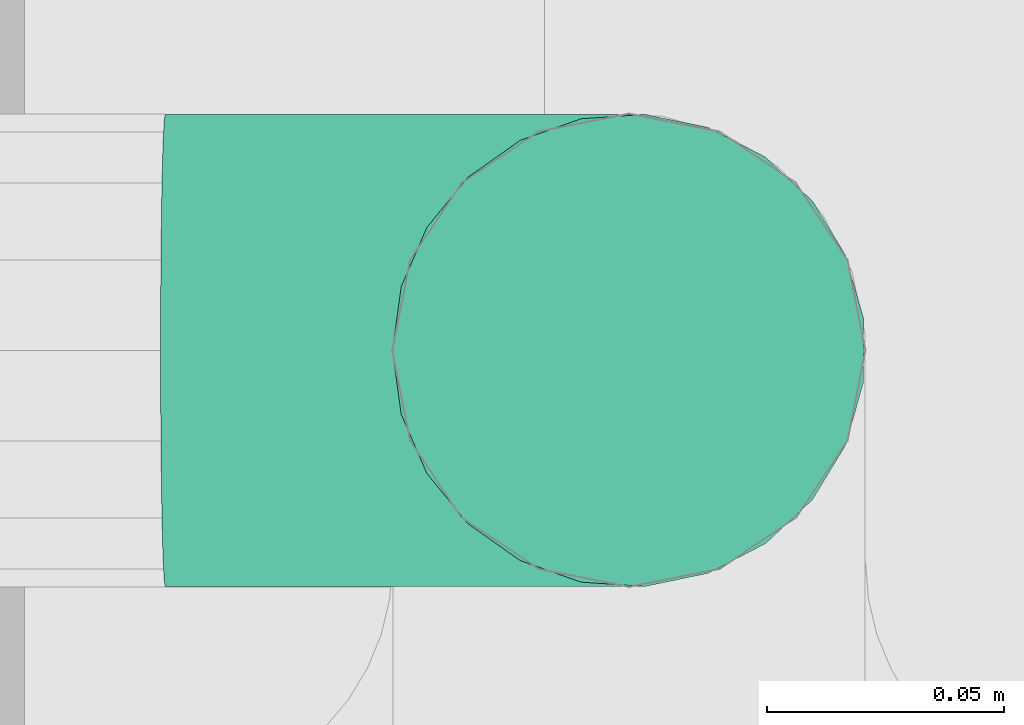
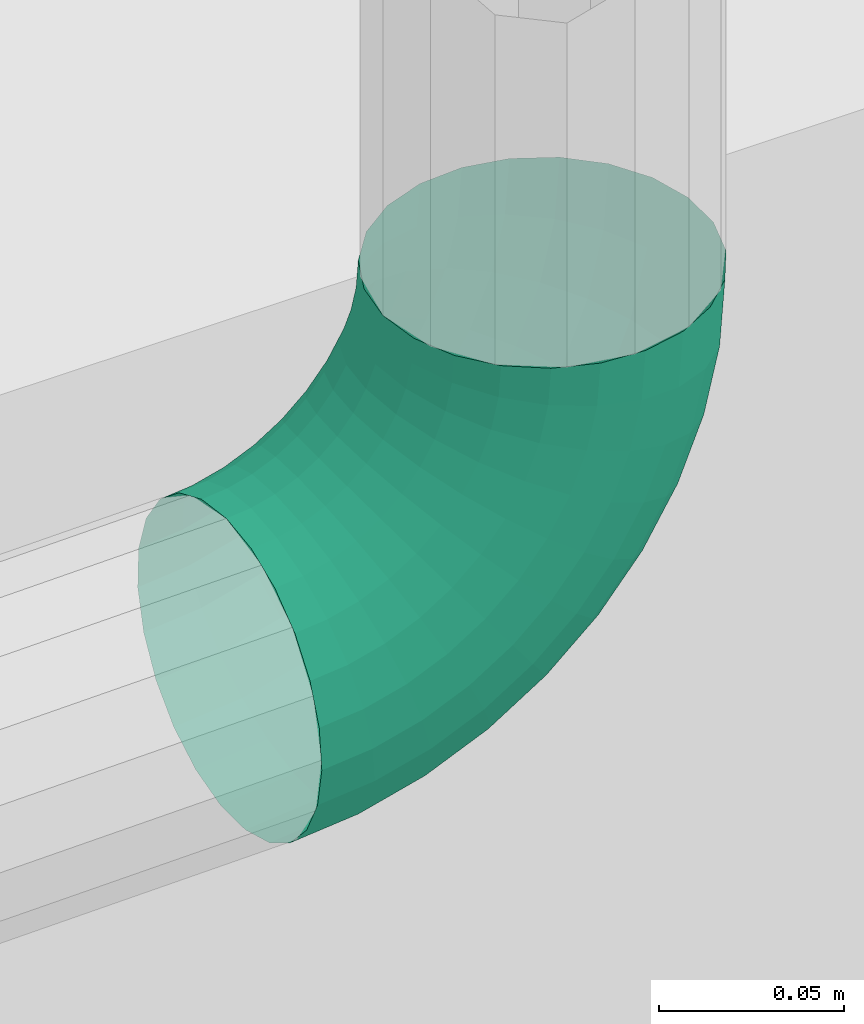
# One storey, part 77 of 106: 1 flow fitting.
"""IFC2X3 building model written with IfcOpenShell, lengths in metres."""

import ifcopenshell
import ifcopenshell.guid

model = None  # the IFC model being written
_history = None  # IfcOwnerHistory: only IFC2X3 demands one
_inside = {}  # id of a spatial element -> (the spatial element, [elements in it])
_under = {}  # id of a project, library or spatial element -> (it, [spatial elements below it])
_declared = {}  # id of a project -> (the project, [libraries it declares])
_typed = {}  # id of a type object -> (the type object, [elements of that type])
_made_of = {}  # id of a material, layer set ... -> (it, [elements and type objects made of it])


def new_model(schema):
    """Start an empty IFC model of exactly this schema.

    Asked for "IFC4X3", IfcOpenShell would pick the latest addendum, in which some entities
    have other attributes; the version numbers below select the first issue.
    IFC2X3 requires an IfcOwnerHistory on every rooted entity: one is made here for all.
    """
    global model, _history
    if schema == "IFC4X3":
        model = ifcopenshell.file(schema_version=(4, 3, 0, 0))
    else:
        model = ifcopenshell.file(schema=schema)
    _inside.clear()
    _under.clear()
    _declared.clear()
    _typed.clear()
    _made_of.clear()
    _history = None
    if model.schema == "IFC2X3":
        org = make("IfcOrganization", Name="unknown")
        user = make(
            "IfcPersonAndOrganization",
            ThePerson=make("IfcPerson", FamilyName="unknown"),
            TheOrganization=org,
        )
        app = make(
            "IfcApplication",
            ApplicationDeveloper=org,
            Version="unknown",
            ApplicationFullName="unknown",
            ApplicationIdentifier="unknown",
        )
        _history = make(
            "IfcOwnerHistory",
            OwningUser=user,
            OwningApplication=app,
            ChangeAction="ADDED",
            CreationDate=0,
        )
    return model


def make(cls, **values):
    """One entity of the class cls with the attributes given. An attribute that is None is left unset."""
    return model.create_entity(
        cls, **{name: value for name, value in values.items() if value is not None}
    )


def entity(cls, *values):
    """Any entity or typed value of the class cls, its attributes in the order of the schema. None: left unset."""
    e = model.create_entity(cls)
    for i, value in enumerate(values):
        if value is not None:
            e[i] = value
    return e


def rooted(cls, **values):
    """An entity with a GlobalId (a new one), such as an element, a storey or a relation."""
    return make(cls, GlobalId=ifcopenshell.guid.new(), OwnerHistory=_history, **values)


def si_unit(unit_type, name, prefix=None):
    """IfcSIUnit, for example si_unit("LENGTHUNIT", "METRE", prefix="MILLI")."""
    return make("IfcSIUnit", UnitType=unit_type, Prefix=prefix, Name=name)


def converted_unit(unit_type, name, factor, base, dimensions=None, offset=None):
    """IfcConversionBasedUnit, such as the inch: factor (a typed value) times the base unit."""
    return make(
        "IfcConversionBasedUnit"
        if offset is None
        else "IfcConversionBasedUnitWithOffset",
        ConversionOffset=offset,
        Dimensions=None
        if dimensions is None
        else entity("IfcDimensionalExponents", *dimensions),
        UnitType=unit_type,
        Name=name,
        ConversionFactor=make(
            "IfcMeasureWithUnit", ValueComponent=factor, UnitComponent=base
        ),
    )


def derived_unit(unit_type, elements):
    """IfcDerivedUnit: a product of units, each with its exponent."""
    return make(
        "IfcDerivedUnit",
        Elements=[
            make("IfcDerivedUnitElement", Unit=unit, Exponent=power)
            for unit, power in elements
        ],
        UnitType=unit_type,
    )


def money_unit(currency):
    """IfcMonetaryUnit."""
    return make("IfcMonetaryUnit", Currency=currency)


def assignment(units):
    """IfcUnitAssignment: the units of a project."""
    return None if units is None else make("IfcUnitAssignment", Units=units)


def point(xyz):
    """IfcCartesianPoint."""
    return None if xyz is None else make("IfcCartesianPoint", Coordinates=xyz)


def direction(xyz):
    """IfcDirection."""
    return None if xyz is None else make("IfcDirection", DirectionRatios=xyz)


def frame(location, z_axis=None, x_axis=None):
    """IfcAxis2Placement3D, a coordinate frame: its origin and axes. An axis left out is left unset."""
    return make(
        "IfcAxis2Placement3D",
        Location=point(location),
        Axis=direction(z_axis),
        RefDirection=direction(x_axis),
    )


def origin_with_axes():
    """The frame at (0, 0, 0) with the z axis (0, 0, 1) and the x axis (1, 0, 0) written out."""
    return frame((0.0, 0.0, 0.0), z_axis=(0.0, 0.0, 1.0), x_axis=(1.0, 0.0, 0.0))


def place(relative_to, where):
    """IfcLocalPlacement: puts the frame where relative to a parent placement (None: the world)."""
    return make(
        "IfcLocalPlacement", PlacementRelTo=relative_to, RelativePlacement=where
    )


def context(
    kind, dimensions, precision=None, world=None, true_north=None, identifier=None
):
    """IfcGeometricRepresentationContext, for example the 3D "Model" context."""
    return make(
        "IfcGeometricRepresentationContext",
        ContextIdentifier=identifier,
        ContextType=kind,
        CoordinateSpaceDimension=dimensions,
        Precision=precision,
        WorldCoordinateSystem=world,
        TrueNorth=true_north,
    )


def subcontext(parent, identifier, kind, view, scale=None):
    """IfcGeometricRepresentationSubContext, for example "Body" below "Model"."""
    return make(
        "IfcGeometricRepresentationSubContext",
        ContextIdentifier=identifier,
        ContextType=kind,
        ParentContext=parent,
        TargetScale=scale,
        TargetView=view,
    )


def project(units=None, contexts=None):
    """IfcProject with its units and contexts."""
    return rooted(
        "IfcProject",
        Name="project",
        RepresentationContexts=contexts,
        UnitsInContext=assignment(units),
    )


def spatial(cls, under=None, at=None, **own):
    """A site, building, storey or space (cls), placed at a placement, below another one or the project."""
    s = rooted(cls, ObjectPlacement=at, **own)
    if under is not None:
        _under.setdefault(under.id(), (under, []))[1].append(s)
    return s


def faces_of(points, faces, orient=None, outer=None):
    """IfcFace entities. A face is a list of loops; a loop is a list of indices into points, from 0.

    orient and outer hold one flag for each loop. By default every Orientation is true, the
    first loop of a face is its IfcFaceOuterBound and the others are IfcFaceBound.
    """
    made = []
    for i, loops in enumerate(faces):
        bounds = []
        for j, loop in enumerate(loops):
            is_outer = j == 0 if outer is None else outer[i][j]
            bounds.append(
                make(
                    "IfcFaceOuterBound" if is_outer else "IfcFaceBound",
                    Bound=make("IfcPolyLoop", Polygon=[points[k] for k in loop]),
                    Orientation=True if orient is None else orient[i][j],
                )
            )
        made.append(make("IfcFace", Bounds=bounds))
    return made


def open_shell(faces, orient=None, outer=None):
    """The faces of one IfcOpenShell. surface_model builds it on its shared points."""
    return ("IfcOpenShell", faces, orient, outer)


def surface_model(cls, points, shells):
    """IfcFaceBasedSurfaceModel or IfcShellBasedSurfaceModel (cls): surfaces that need not close."""
    shared = [point(p) for p in points]
    made = [make(c, CfsFaces=faces_of(shared, fs, o, b)) for c, fs, o, b in shells]
    if cls == "IfcFaceBasedSurfaceModel":
        return make(cls, FbsmFaces=made)
    return make(cls, SbsmBoundary=made)


def shape(context_of_items, identifier, shape_type, items):
    """IfcShapeRepresentation: the items that make up one representation, for example the "Body"."""
    return make(
        "IfcShapeRepresentation",
        ContextOfItems=context_of_items,
        RepresentationIdentifier=identifier,
        RepresentationType=shape_type,
        Items=items,
    )


def material(Name=None, Category=None):
    """IfcMaterial."""
    return make("IfcMaterial", Name=Name, Category=Category)


def made_of(thing, what):
    """Note that an element or type object is made of a material, layer set ...; save() writes the relation."""
    if what is not None:
        _made_of.setdefault(what.id(), (what, []))[1].append(thing)
    return thing


def type_object(cls, material=None, **own):
    """A type object (cls), such as IfcWallType, which elements share."""
    return made_of(rooted(cls, **own), material)


def element(
    cls,
    number,
    at=None,
    inside=None,
    cuts=None,
    type_object=None,
    material=None,
    context=None,
    identifier="Body",
    shape_type=None,
    held_by="IfcProductDefinitionShape",
    body=None,
    shapes=None,
    **own,
):
    """One element of the class cls, such as IfcWall. Its Tag is "e" and its number.

    at: its placement. inside: the storey or other place that contains it. cuts: it is an
    opening in that element (IfcRelVoidsElement). A single representation is given by context,
    identifier, shape_type and body (its items); several are given by shapes. held_by: the class
    of the entity that holds the representations. save() writes the other relations.
    """
    e = rooted(cls, Tag="e%d" % number, ObjectPlacement=at, **own)
    if body is not None:
        shapes = [shape(context, identifier, shape_type, body)]
    if shapes is not None:
        e.Representation = make(held_by, Representations=shapes)
    if inside is not None:
        _inside.setdefault(inside.id(), (inside, []))[1].append(e)
    if cuts is not None:
        rooted(
            "IfcRelVoidsElement", RelatingBuildingElement=cuts, RelatedOpeningElement=e
        )
    if type_object is not None:
        _typed.setdefault(type_object.id(), (type_object, []))[1].append(e)
    return made_of(e, material)


def aggregate(whole, parts):
    """IfcRelAggregates: a whole, such as a stair, and the parts it consists of."""
    return rooted("IfcRelAggregates", RelatingObject=whole, RelatedObjects=parts)


def save(model, path):
    """Write the relations noted so far, then the file.

    IfcRelAggregates (storeys below a building ...), IfcRelContainedInSpatialStructure (elements
    in a storey), IfcRelDefinesByType, IfcRelAssociatesMaterial and IfcRelDeclares: one each for
    every whole, place, type object, material and project.
    """
    for whole, parts in _under.values():
        aggregate(whole, parts)
    for where, things in _inside.values():
        rooted(
            "IfcRelContainedInSpatialStructure",
            RelatedElements=things,
            RelatingStructure=where,
        )
    for kind, things in _typed.values():
        rooted("IfcRelDefinesByType", RelatedObjects=things, RelatingType=kind)
    for what, things in _made_of.values():
        rooted("IfcRelAssociatesMaterial", RelatedObjects=things, RelatingMaterial=what)
    for by, libraries in _declared.values():
        rooted("IfcRelDeclares", RelatingContext=by, RelatedDefinitions=libraries)
    model.write(path)


model = new_model("IFC2X3")

# Units and contexts
model_context = context("Model", 3, precision=1e-05, world=origin_with_axes(), true_north=direction((0.0, 1.0)))
body_context = subcontext(model_context, "Body", "Model", "MODEL_VIEW", scale=1.0)
ifc_project = project(units=[si_unit("LENGTHUNIT", "METRE"), si_unit("AREAUNIT", "SQUARE_METRE"), si_unit("VOLUMEUNIT", "CUBIC_METRE"), si_unit("ABSORBEDDOSEUNIT", "GRAY"), si_unit("AMOUNTOFSUBSTANCEUNIT", "MOLE"), si_unit("DOSEEQUIVALENTUNIT", "SIEVERT"), si_unit("ELECTRICCAPACITANCEUNIT", "FARAD"), si_unit("ELECTRICCHARGEUNIT", "COULOMB"), si_unit("ELECTRICCONDUCTANCEUNIT", "SIEMENS"), si_unit("ELECTRICCURRENTUNIT", "AMPERE"), si_unit("ELECTRICRESISTANCEUNIT", "OHM"), si_unit("ELECTRICVOLTAGEUNIT", "VOLT"), si_unit("ENERGYUNIT", "JOULE"), si_unit("FORCEUNIT", "NEWTON"), si_unit("FREQUENCYUNIT", "HERTZ"), si_unit("ILLUMINANCEUNIT", "LUX"), si_unit("INDUCTANCEUNIT", "HENRY"), si_unit("LUMINOUSFLUXUNIT", "LUMEN"), si_unit("LUMINOUSINTENSITYUNIT", "CANDELA"), si_unit("MAGNETICFLUXDENSITYUNIT", "TESLA"), si_unit("MAGNETICFLUXUNIT", "WEBER"), si_unit("MASSUNIT", "GRAM"), converted_unit("PLANEANGLEUNIT", "degree", entity("IfcReal", 0.0174532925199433), si_unit("PLANEANGLEUNIT", "RADIAN"), dimensions=[0, 0, 0, 0, 0, 0, 0]), si_unit("POWERUNIT", "WATT"), si_unit("PRESSUREUNIT", "PASCAL"), si_unit("RADIOACTIVITYUNIT", "BECQUEREL"), si_unit("SOLIDANGLEUNIT", "STERADIAN"), si_unit("THERMODYNAMICTEMPERATUREUNIT", "KELVIN"), si_unit("TIMEUNIT", "SECOND"), derived_unit("ACCELERATIONUNIT", [(si_unit("LENGTHUNIT", "METRE"), 1), (si_unit("TIMEUNIT", "SECOND"), -2)]), derived_unit("ANGULARVELOCITYUNIT", [(converted_unit("PLANEANGLEUNIT", "degree", entity("IfcReal", 0.0174532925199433), si_unit("PLANEANGLEUNIT", "RADIAN"), dimensions=[0, 0, 0, 0, 0, 0, 0]), 1), (si_unit("TIMEUNIT", "SECOND"), -1)]), derived_unit("CURVATUREUNIT", [(converted_unit("PLANEANGLEUNIT", "degree", entity("IfcReal", 0.0174532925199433), si_unit("PLANEANGLEUNIT", "RADIAN"), dimensions=[0, 0, 0, 0, 0, 0, 0]), 1), (si_unit("LENGTHUNIT", "METRE"), -1)]), derived_unit("DYNAMICVISCOSITYUNIT", [(si_unit("PRESSUREUNIT", "PASCAL"), 1), (si_unit("TIMEUNIT", "SECOND"), 1)]), derived_unit("HEATFLUXDENSITYUNIT", [(si_unit("POWERUNIT", "WATT"), 1), (si_unit("LENGTHUNIT", "METRE"), -2)]), derived_unit("HEATINGVALUEUNIT", [(si_unit("ENERGYUNIT", "JOULE"), 1), (si_unit("MASSUNIT", "GRAM"), -1)]), derived_unit("INTEGERCOUNTRATEUNIT", [(si_unit("TIMEUNIT", "SECOND"), -1)]), derived_unit("IONCONCENTRATIONUNIT", [(si_unit("MASSUNIT", "GRAM"), 1), (si_unit("VOLUMEUNIT", "CUBIC_METRE"), -1)]), derived_unit("ISOTHERMALMOISTURECAPACITYUNIT", [(si_unit("VOLUMEUNIT", "CUBIC_METRE"), 1), (si_unit("MASSUNIT", "GRAM"), -1)]), derived_unit("KINEMATICVISCOSITYUNIT", [(si_unit("AREAUNIT", "SQUARE_METRE"), 1), (si_unit("TIMEUNIT", "SECOND"), -1)]), derived_unit("LINEARFORCEUNIT", [(si_unit("FORCEUNIT", "NEWTON"), 1), (si_unit("LENGTHUNIT", "METRE"), -1)]), derived_unit("LINEARMOMENTUNIT", [(si_unit("FORCEUNIT", "NEWTON"), 1), (si_unit("LENGTHUNIT", "METRE"), -1)]), derived_unit("LINEARSTIFFNESSUNIT", [(si_unit("FORCEUNIT", "NEWTON"), 1), (si_unit("LENGTHUNIT", "METRE"), -1)]), derived_unit("LINEARVELOCITYUNIT", [(si_unit("LENGTHUNIT", "METRE"), 1), (si_unit("TIMEUNIT", "SECOND"), -1)]), derived_unit("LUMINOUSINTENSITYDISTRIBUTIONUNIT", [(si_unit("LUMINOUSINTENSITYUNIT", "CANDELA"), 1), (si_unit("LUMINOUSFLUXUNIT", "LUMEN"), -1)]), derived_unit("MASSDENSITYUNIT", [(si_unit("MASSUNIT", "GRAM"), 1), (si_unit("VOLUMEUNIT", "CUBIC_METRE"), -1)]), derived_unit("MASSFLOWRATEUNIT", [(si_unit("MASSUNIT", "GRAM"), 1), (si_unit("TIMEUNIT", "SECOND"), -1)]), derived_unit("MASSPERLENGTHUNIT", [(si_unit("MASSUNIT", "GRAM"), 1), (si_unit("LENGTHUNIT", "METRE"), -1)]), derived_unit("MODULUSOFELASTICITYUNIT", [(si_unit("FORCEUNIT", "NEWTON"), 1), (si_unit("AREAUNIT", "SQUARE_METRE"), -1)]), derived_unit("MODULUSOFLINEARSUBGRADEREACTIONUNIT", [(si_unit("FORCEUNIT", "NEWTON"), 1), (si_unit("LENGTHUNIT", "METRE"), -2)]), derived_unit("MODULUSOFROTATIONALSUBGRADEREACTIONUNIT", [(si_unit("FORCEUNIT", "NEWTON"), 1), (si_unit("LENGTHUNIT", "METRE"), 1)]), derived_unit("MODULUSOFSUBGRADEREACTIONUNIT", [(si_unit("FORCEUNIT", "NEWTON"), 1), (si_unit("VOLUMEUNIT", "CUBIC_METRE"), -1)]), derived_unit("MOISTUREDIFFUSIVITYUNIT", [(si_unit("VOLUMEUNIT", "CUBIC_METRE"), 1), (si_unit("TIMEUNIT", "SECOND"), -1)]), derived_unit("MOLECULARWEIGHTUNIT", [(si_unit("MASSUNIT", "GRAM"), 1), (si_unit("AMOUNTOFSUBSTANCEUNIT", "MOLE"), -1)]), derived_unit("PLANARFORCEUNIT", [(si_unit("FORCEUNIT", "NEWTON"), 1), (si_unit("LENGTHUNIT", "METRE"), -2)]), derived_unit("ROTATIONALFREQUENCYUNIT", [(si_unit("TIMEUNIT", "SECOND"), -1)]), derived_unit("ROTATIONALMASSUNIT", [(si_unit("MASSUNIT", "GRAM"), 1), (si_unit("LENGTHUNIT", "METRE"), 2)]), derived_unit("ROTATIONALSTIFFNESSUNIT", [(si_unit("FORCEUNIT", "NEWTON"), 1), (si_unit("LENGTHUNIT", "METRE"), 1), (converted_unit("PLANEANGLEUNIT", "degree", entity("IfcReal", 0.0174532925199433), si_unit("PLANEANGLEUNIT", "RADIAN"), dimensions=[0, 0, 0, 0, 0, 0, 0]), -1)]), derived_unit("SECTIONAREAINTEGRALUNIT", [(si_unit("LENGTHUNIT", "METRE"), 5)]), derived_unit("SECTIONMODULUSUNIT", [(si_unit("LENGTHUNIT", "METRE"), 3)]), derived_unit("SHEARMODULUSUNIT", [(si_unit("FORCEUNIT", "NEWTON"), 1), (si_unit("AREAUNIT", "SQUARE_METRE"), -1)]), derived_unit("SOUNDPOWERUNIT", [(si_unit("ENERGYUNIT", "JOULE"), 1), (si_unit("TIMEUNIT", "SECOND"), -1)]), derived_unit("SPECIFICHEATCAPACITYUNIT", [(si_unit("FORCEUNIT", "NEWTON"), 1), (si_unit("MASSUNIT", "GRAM"), -1), (si_unit("THERMODYNAMICTEMPERATUREUNIT", "KELVIN"), -1)]), derived_unit("TEMPERATUREGRADIENTUNIT", [(si_unit("THERMODYNAMICTEMPERATUREUNIT", "KELVIN"), 1), (si_unit("LENGTHUNIT", "METRE"), -1)]), derived_unit("THERMALADMITTANCEUNIT", [(si_unit("POWERUNIT", "WATT"), 1), (si_unit("AREAUNIT", "SQUARE_METRE"), -1), (si_unit("THERMODYNAMICTEMPERATUREUNIT", "KELVIN"), -1)]), derived_unit("THERMALCONDUCTANCEUNIT", [(si_unit("POWERUNIT", "WATT"), 1), (si_unit("LENGTHUNIT", "METRE"), -1), (si_unit("THERMODYNAMICTEMPERATUREUNIT", "KELVIN"), -1)]), derived_unit("THERMALEXPANSIONCOEFFICIENTUNIT", [(si_unit("THERMODYNAMICTEMPERATUREUNIT", "KELVIN"), -1)]), derived_unit("THERMALRESISTANCEUNIT", [(si_unit("AREAUNIT", "SQUARE_METRE"), 1), (si_unit("POWERUNIT", "WATT"), -1)]), derived_unit("THERMALTRANSMITTANCEUNIT", [(si_unit("POWERUNIT", "WATT"), 1), (si_unit("AREAUNIT", "SQUARE_METRE"), -1), (si_unit("THERMODYNAMICTEMPERATUREUNIT", "KELVIN"), -1)]), derived_unit("TORQUEUNIT", [(si_unit("FORCEUNIT", "NEWTON"), 1), (si_unit("LENGTHUNIT", "METRE"), 1)]), derived_unit("VAPORPERMEABILITYUNIT", [(si_unit("MASSUNIT", "GRAM"), 1), (si_unit("TIMEUNIT", "SECOND"), -1)]), derived_unit("VOLUMETRICFLOWRATEUNIT", [(si_unit("VOLUMEUNIT", "CUBIC_METRE"), 1), (si_unit("TIMEUNIT", "SECOND"), -1)]), derived_unit("WARPINGCONSTANTUNIT", [(si_unit("LENGTHUNIT", "METRE"), 6)]), derived_unit("WARPINGMOMENTUNIT", [(si_unit("FORCEUNIT", "NEWTON"), 1), (si_unit("LENGTHUNIT", "METRE"), 2)]), money_unit("GBP")], contexts=[model_context])

# Site, building, storey
site_placement = place(None, origin_with_axes())
site = spatial("IfcSite", under=ifc_project, at=site_placement, Name="Site", CompositionType="ELEMENT")
building_placement = place(site_placement, origin_with_axes())
building = spatial("IfcBuilding", under=site, at=building_placement, Name="Building01", CompositionType="ELEMENT")
storey_placement = place(building_placement, origin_with_axes())
storey = spatial("IfcBuildingStorey", under=building, at=storey_placement, Name="GF", CompositionType="ELEMENT", Elevation=0.0)

# Flow fitting
ifc_material = material(Name="M_BSUK_ColdWater")
pipe_fitting_type = type_object("IfcPipeFittingType", Name="M-BmpElbow-DefaultElbow", PredefinedType="BEND")
flow_fitting_placement = place(storey_placement, frame((0.408496, 14.95, 6.34671), z_axis=(1.0, 0.0, 0.0), x_axis=(0.0, 0.0, -1.0)))
element("IfcFlowFitting", 1, at=flow_fitting_placement, inside=storey, type_object=pipe_fitting_type, material=ifc_material, Name="M-BmpElbow-DefaultElbow", ObjectType="M-BmpElbow-DefaultElbow", context=body_context, shape_type="SurfaceModel", body=[
    surface_model("IfcShellBasedSurfaceModel", [(0.008009, -0.01349, -0.048768), (0.0, -0.01349, -0.048146), (0.0, 0.0, -0.05), (0.007723, 0.0, -0.0506), (0.015826, -0.01349, -0.05062), (0.015261, 0.0, -0.052386), (0.023264, -0.01349, -0.053657), (0.022432, 0.0, -0.055314), (0.030143, -0.01349, -0.057807), (0.029065, 0.0, -0.059315), (0.036298, -0.01349, -0.062969), (0.035, 0.0, -0.064293), (0.041582, -0.01349, -0.06902), (0.040095, 0.0, -0.070127), (0.045868, -0.01349, -0.075814), (0.044228, 0.0, -0.076679), (0.049054, -0.01349, -0.083189), (0.0473, 0.0, -0.08379), (0.051061, -0.01349, -0.090968), (0.049236, 0.0, -0.091291), (0.051844, -0.01349, -0.098963), (0.04999, 0.0, -0.099), (0.008847, -0.025979, -0.043408), (0.0, -0.025979, -0.042721), (0.017482, -0.025979, -0.045454), (0.025697, -0.025979, -0.048809), (0.033296, -0.025979, -0.053392), (0.040095, -0.025979, -0.059095), (0.045932, -0.025979, -0.065779), (0.050667, -0.025979, -0.073284), (0.054185, -0.025979, -0.081431), (0.056403, -0.025979, -0.090023), (0.057268, -0.025979, -0.098855), (0.010175, -0.036542, -0.034918), (0.0, -0.036542, -0.034128), (0.020105, -0.036542, -0.037271), (0.029553, -0.036542, -0.041129), (0.038291, -0.036542, -0.0464), (0.046111, -0.036542, -0.052958), (0.052823, -0.036542, -0.060645), (0.058268, -0.036542, -0.069276), (0.062315, -0.036542, -0.078645), (0.064865, -0.036542, -0.088526), (0.065859, -0.036542, -0.098683), (0.011893, -0.044394, -0.023927), (0.0, -0.044394, -0.023003), (0.0235, -0.044394, -0.026677), (0.034544, -0.044394, -0.031187), (0.044758, -0.044394, -0.037348), (0.053898, -0.044394, -0.045013), (0.061744, -0.044394, -0.053998), (0.068109, -0.044394, -0.064087), (0.072838, -0.044394, -0.075038), (0.07582, -0.044394, -0.086588), (0.076981, -0.044394, -0.09846), (0.013875, -0.048954, -0.011251), (0.0, -0.048954, -0.010173), (0.027416, -0.048954, -0.014459), (0.0403, -0.048954, -0.01972), (0.052216, -0.048954, -0.026908), (0.062879, -0.048954, -0.035851), (0.072033, -0.048954, -0.046333), (0.079458, -0.048954, -0.058103), (0.084976, -0.048954, -0.070879), (0.088454, -0.048954, -0.084353), (0.089809, -0.048954, -0.098204), (0.015973, -0.049883, 0.002171), (0.0, -0.049883, 0.003412), (0.031562, -0.049883, -0.001522), (0.046394, -0.049883, -0.007579), (0.060113, -0.049883, -0.015854), (0.072389, -0.049883, -0.026149), (0.082927, -0.049883, -0.038216), (0.091475, -0.049883, -0.051767), (0.097827, -0.049883, -0.066475), (0.101831, -0.049883, -0.081987), (0.103391, -0.049883, -0.097932), (0.018032, -0.047113, 0.015343), (0.0, -0.047113, 0.016744), (0.035632, -0.047113, 0.011174), (0.052376, -0.047113, 0.004336), (0.067863, -0.047113, -0.005006), (0.081721, -0.047113, -0.016628), (0.093618, -0.047113, -0.030251), (0.103268, -0.047113, -0.045548), (0.110439, -0.047113, -0.062153), (0.114959, -0.047113, -0.079665), (0.116721, -0.047113, -0.097665), (0.0199, -0.040848, 0.027288), (0.0, -0.040848, 0.028834), (0.039322, -0.040848, 0.022687), (0.0578, -0.040848, 0.015141), (0.074891, -0.040848, 0.004831), (0.090184, -0.040848, -0.007994), (0.103313, -0.040848, -0.023028), (0.113962, -0.040848, -0.039909), (0.121876, -0.040848, -0.058233), (0.126865, -0.040848, -0.077559), (0.128808, -0.040848, -0.097424), (0.021437, -0.031554, 0.03712), (0.0, -0.031554, 0.038786), (0.042359, -0.031554, 0.032163), (0.062264, -0.031554, 0.024035), (0.080675, -0.031554, 0.012929), (0.09715, -0.031554, -0.000887), (0.111293, -0.031554, -0.017083), (0.122765, -0.031554, -0.035268), (0.13129, -0.031554, -0.055007), (0.136664, -0.031554, -0.075826), (0.138758, -0.031554, -0.097225), (0.022529, -0.01992, 0.04411), (0.0, -0.01992, 0.045861), (0.044518, -0.01992, 0.038901), (0.065438, -0.01992, 0.030358), (0.084788, -0.01992, 0.018686), (0.102103, -0.01992, 0.004165), (0.116966, -0.01992, -0.012856), (0.129023, -0.01992, -0.031968), (0.137983, -0.01992, -0.052713), (0.143631, -0.01992, -0.074593), (0.145831, -0.01992, -0.097083), (0.023097, -0.006808, 0.04774), (0.0, -0.006808, 0.049534), (0.045639, -0.006808, 0.042399), (0.067087, -0.006808, 0.033641), (0.086924, -0.006808, 0.021675), (0.104674, -0.006808, 0.006789), (0.119912, -0.006808, -0.010661), (0.132273, -0.006808, -0.030254), (0.141458, -0.006808, -0.051522), (0.147248, -0.006808, -0.073953), (0.149504, -0.006808, -0.09701), (0.023097, 0.006808, 0.04774), (0.0, 0.006808, 0.049534), (0.045639, 0.006808, 0.042399), (0.067087, 0.006808, 0.033641), (0.086924, 0.006808, 0.021675), (0.104674, 0.006808, 0.006789), (0.119912, 0.006808, -0.010661), (0.132273, 0.006808, -0.030254), (0.141458, 0.006808, -0.051522), (0.147248, 0.006808, -0.073953), (0.149504, 0.006808, -0.09701), (0.022529, 0.01992, 0.04411), (0.0, 0.01992, 0.045861), (0.044518, 0.01992, 0.038901), (0.065438, 0.01992, 0.030358), (0.084788, 0.01992, 0.018686), (0.102103, 0.01992, 0.004165), (0.116966, 0.01992, -0.012856), (0.129023, 0.01992, -0.031968), (0.137983, 0.01992, -0.052713), (0.143631, 0.01992, -0.074593), (0.145831, 0.01992, -0.097083), (0.021437, 0.031554, 0.03712), (0.0, 0.031554, 0.038786), (0.042359, 0.031554, 0.032163), (0.062264, 0.031554, 0.024035), (0.080675, 0.031554, 0.012929), (0.09715, 0.031554, -0.000887), (0.111293, 0.031554, -0.017083), (0.122765, 0.031554, -0.035268), (0.13129, 0.031554, -0.055007), (0.136664, 0.031554, -0.075826), (0.138758, 0.031554, -0.097225), (0.0199, 0.040848, 0.027288), (0.0, 0.040848, 0.028834), (0.039322, 0.040848, 0.022687), (0.0578, 0.040848, 0.015141), (0.074891, 0.040848, 0.004831), (0.090184, 0.040848, -0.007994), (0.103313, 0.040848, -0.023028), (0.113962, 0.040848, -0.039909), (0.121876, 0.040848, -0.058233), (0.126865, 0.040848, -0.077559), (0.128808, 0.040848, -0.097424), (0.018032, 0.047113, 0.015343), (0.0, 0.047113, 0.016744), (0.035632, 0.047113, 0.011174), (0.052376, 0.047113, 0.004336), (0.067863, 0.047113, -0.005006), (0.081721, 0.047113, -0.016628), (0.093618, 0.047113, -0.030251), (0.103268, 0.047113, -0.045548), (0.110439, 0.047113, -0.062153), (0.114959, 0.047113, -0.079665), (0.116721, 0.047113, -0.097665), (0.015973, 0.049883, 0.002171), (0.0, 0.049883, 0.003412), (0.031562, 0.049883, -0.001522), (0.046394, 0.049883, -0.007579), (0.060113, 0.049883, -0.015854), (0.072389, 0.049883, -0.026149), (0.082927, 0.049883, -0.038216), (0.091475, 0.049883, -0.051767), (0.097827, 0.049883, -0.066475), (0.101831, 0.049883, -0.081987), (0.103391, 0.049883, -0.097932), (0.013875, 0.048954, -0.011251), (0.0, 0.048954, -0.010173), (0.027416, 0.048954, -0.014459), (0.0403, 0.048954, -0.01972), (0.052216, 0.048954, -0.026908), (0.062879, 0.048954, -0.035851), (0.072033, 0.048954, -0.046333), (0.079458, 0.048954, -0.058103), (0.084976, 0.048954, -0.070879), (0.088454, 0.048954, -0.084353), (0.089809, 0.048954, -0.098204), (0.011893, 0.044394, -0.023927), (0.0, 0.044394, -0.023003), (0.0235, 0.044394, -0.026677), (0.034544, 0.044394, -0.031187), (0.044758, 0.044394, -0.037348), (0.053898, 0.044394, -0.045013), (0.061744, 0.044394, -0.053998), (0.068109, 0.044394, -0.064087), (0.072838, 0.044394, -0.075038), (0.07582, 0.044394, -0.086588), (0.076981, 0.044394, -0.09846), (0.010175, 0.036542, -0.034918), (0.0, 0.036542, -0.034128), (0.020105, 0.036542, -0.037271), (0.029553, 0.036542, -0.041129), (0.038291, 0.036542, -0.0464), (0.046111, 0.036542, -0.052958), (0.052823, 0.036542, -0.060645), (0.058268, 0.036542, -0.069276), (0.062315, 0.036542, -0.078645), (0.064865, 0.036542, -0.088526), (0.065859, 0.036542, -0.098683), (0.008847, 0.025979, -0.043408), (0.0, 0.025979, -0.042721), (0.017482, 0.025979, -0.045454), (0.025697, 0.025979, -0.048809), (0.033296, 0.025979, -0.053392), (0.040095, 0.025979, -0.059095), (0.045932, 0.025979, -0.065779), (0.050667, 0.025979, -0.073284), (0.054185, 0.025979, -0.081431), (0.056403, 0.025979, -0.090023), (0.057268, 0.025979, -0.098855), (0.008009, 0.01349, -0.048768), (0.0, 0.01349, -0.048146), (0.015826, 0.01349, -0.05062), (0.023264, 0.01349, -0.053657), (0.030143, 0.01349, -0.057807), (0.036298, 0.01349, -0.062969), (0.041582, 0.01349, -0.06902), (0.045868, 0.01349, -0.075814), (0.049054, 0.01349, -0.083189), (0.051061, 0.01349, -0.090968), (0.051844, 0.01349, -0.098963)], [open_shell([[[0, 1, 2, 3]], [[4, 0, 3, 5]], [[6, 4, 5, 7]], [[8, 6, 7, 9]], [[10, 8, 9, 11]], [[12, 10, 11, 13]], [[14, 12, 13, 15]], [[16, 14, 15, 17]], [[18, 16, 17, 19]], [[20, 18, 19, 21]], [[22, 23, 1, 0]], [[24, 22, 0, 4]], [[25, 24, 4, 6]], [[26, 25, 6, 8]], [[27, 26, 8, 10]], [[28, 27, 10, 12]], [[29, 28, 12, 14]], [[30, 29, 14, 16]], [[31, 30, 16, 18]], [[32, 31, 18, 20]], [[33, 34, 23, 22]], [[35, 33, 22, 24]], [[36, 35, 24, 25]], [[37, 36, 25, 26]], [[38, 37, 26, 27]], [[39, 38, 27, 28]], [[40, 39, 28, 29]], [[41, 40, 29, 30]], [[42, 41, 30, 31]], [[43, 42, 31, 32]], [[44, 45, 34, 33]], [[46, 44, 33, 35]], [[47, 46, 35, 36]], [[48, 47, 36, 37]], [[49, 48, 37, 38]], [[50, 49, 38, 39]], [[51, 50, 39, 40]], [[52, 51, 40, 41]], [[53, 52, 41, 42]], [[54, 53, 42, 43]], [[55, 56, 45, 44]], [[57, 55, 44, 46]], [[58, 57, 46, 47]], [[59, 58, 47, 48]], [[60, 59, 48, 49]], [[61, 60, 49, 50]], [[62, 61, 50, 51]], [[63, 62, 51, 52]], [[64, 63, 52, 53]], [[65, 64, 53, 54]], [[66, 67, 56, 55]], [[68, 66, 55, 57]], [[69, 68, 57, 58]], [[70, 69, 58, 59]], [[71, 70, 59, 60]], [[72, 71, 60, 61]], [[73, 72, 61, 62]], [[74, 73, 62, 63]], [[75, 74, 63, 64]], [[76, 75, 64, 65]], [[77, 78, 67, 66]], [[79, 77, 66, 68]], [[80, 79, 68, 69]], [[81, 80, 69, 70]], [[82, 81, 70, 71]], [[83, 82, 71, 72]], [[84, 83, 72, 73]], [[85, 84, 73, 74]], [[86, 85, 74, 75]], [[87, 86, 75, 76]], [[88, 89, 78, 77]], [[90, 88, 77, 79]], [[91, 90, 79, 80]], [[92, 91, 80, 81]], [[93, 92, 81, 82]], [[94, 93, 82, 83]], [[95, 94, 83, 84]], [[96, 95, 84, 85]], [[97, 96, 85, 86]], [[98, 97, 86, 87]], [[99, 100, 89, 88]], [[101, 99, 88, 90]], [[102, 101, 90, 91]], [[103, 102, 91, 92]], [[104, 103, 92, 93]], [[105, 104, 93, 94]], [[106, 105, 94, 95]], [[107, 106, 95, 96]], [[108, 107, 96, 97]], [[109, 108, 97, 98]], [[110, 111, 100, 99]], [[112, 110, 99, 101]], [[113, 112, 101, 102]], [[114, 113, 102, 103]], [[115, 114, 103, 104]], [[116, 115, 104, 105]], [[117, 116, 105, 106]], [[118, 117, 106, 107]], [[119, 118, 107, 108]], [[120, 119, 108, 109]], [[121, 122, 111, 110]], [[123, 121, 110, 112]], [[124, 123, 112, 113]], [[125, 124, 113, 114]], [[126, 125, 114, 115]], [[127, 126, 115, 116]], [[128, 127, 116, 117]], [[129, 128, 117, 118]], [[130, 129, 118, 119]], [[131, 130, 119, 120]], [[132, 133, 122, 121]], [[134, 132, 121, 123]], [[135, 134, 123, 124]], [[136, 135, 124, 125]], [[137, 136, 125, 126]], [[138, 137, 126, 127]], [[139, 138, 127, 128]], [[140, 139, 128, 129]], [[141, 140, 129, 130]], [[142, 141, 130, 131]], [[143, 144, 133, 132]], [[145, 143, 132, 134]], [[146, 145, 134, 135]], [[147, 146, 135, 136]], [[148, 147, 136, 137]], [[149, 148, 137, 138]], [[150, 149, 138, 139]], [[151, 150, 139, 140]], [[152, 151, 140, 141]], [[153, 152, 141, 142]], [[154, 155, 144, 143]], [[156, 154, 143, 145]], [[157, 156, 145, 146]], [[158, 157, 146, 147]], [[159, 158, 147, 148]], [[160, 159, 148, 149]], [[161, 160, 149, 150]], [[162, 161, 150, 151]], [[163, 162, 151, 152]], [[164, 163, 152, 153]], [[165, 166, 155, 154]], [[167, 165, 154, 156]], [[168, 167, 156, 157]], [[169, 168, 157, 158]], [[170, 169, 158, 159]], [[171, 170, 159, 160]], [[172, 171, 160, 161]], [[173, 172, 161, 162]], [[174, 173, 162, 163]], [[175, 174, 163, 164]], [[176, 177, 166, 165]], [[178, 176, 165, 167]], [[179, 178, 167, 168]], [[180, 179, 168, 169]], [[181, 180, 169, 170]], [[182, 181, 170, 171]], [[183, 182, 171, 172]], [[184, 183, 172, 173]], [[185, 184, 173, 174]], [[186, 185, 174, 175]], [[187, 188, 177, 176]], [[189, 187, 176, 178]], [[190, 189, 178, 179]], [[191, 190, 179, 180]], [[192, 191, 180, 181]], [[193, 192, 181, 182]], [[194, 193, 182, 183]], [[195, 194, 183, 184]], [[196, 195, 184, 185]], [[197, 196, 185, 186]], [[198, 199, 188, 187]], [[200, 198, 187, 189]], [[201, 200, 189, 190]], [[202, 201, 190, 191]], [[203, 202, 191, 192]], [[204, 203, 192, 193]], [[205, 204, 193, 194]], [[206, 205, 194, 195]], [[207, 206, 195, 196]], [[208, 207, 196, 197]], [[209, 210, 199, 198]], [[211, 209, 198, 200]], [[212, 211, 200, 201]], [[213, 212, 201, 202]], [[214, 213, 202, 203]], [[215, 214, 203, 204]], [[216, 215, 204, 205]], [[217, 216, 205, 206]], [[218, 217, 206, 207]], [[219, 218, 207, 208]], [[220, 221, 210, 209]], [[222, 220, 209, 211]], [[223, 222, 211, 212]], [[224, 223, 212, 213]], [[225, 224, 213, 214]], [[226, 225, 214, 215]], [[227, 226, 215, 216]], [[228, 227, 216, 217]], [[229, 228, 217, 218]], [[230, 229, 218, 219]], [[231, 232, 221, 220]], [[233, 231, 220, 222]], [[234, 233, 222, 223]], [[235, 234, 223, 224]], [[236, 235, 224, 225]], [[237, 236, 225, 226]], [[238, 237, 226, 227]], [[239, 238, 227, 228]], [[240, 239, 228, 229]], [[241, 240, 229, 230]], [[242, 243, 232, 231]], [[244, 242, 231, 233]], [[245, 244, 233, 234]], [[246, 245, 234, 235]], [[247, 246, 235, 236]], [[248, 247, 236, 237]], [[249, 248, 237, 238]], [[250, 249, 238, 239]], [[251, 250, 239, 240]], [[252, 251, 240, 241]], [[3, 2, 243, 242]], [[5, 3, 242, 244]], [[7, 5, 244, 245]], [[9, 7, 245, 246]], [[11, 9, 246, 247]], [[13, 11, 247, 248]], [[15, 13, 248, 249]], [[17, 15, 249, 250]], [[19, 17, 250, 251]], [[21, 19, 251, 252]]])]),
])

save(model, "model.ifc")
